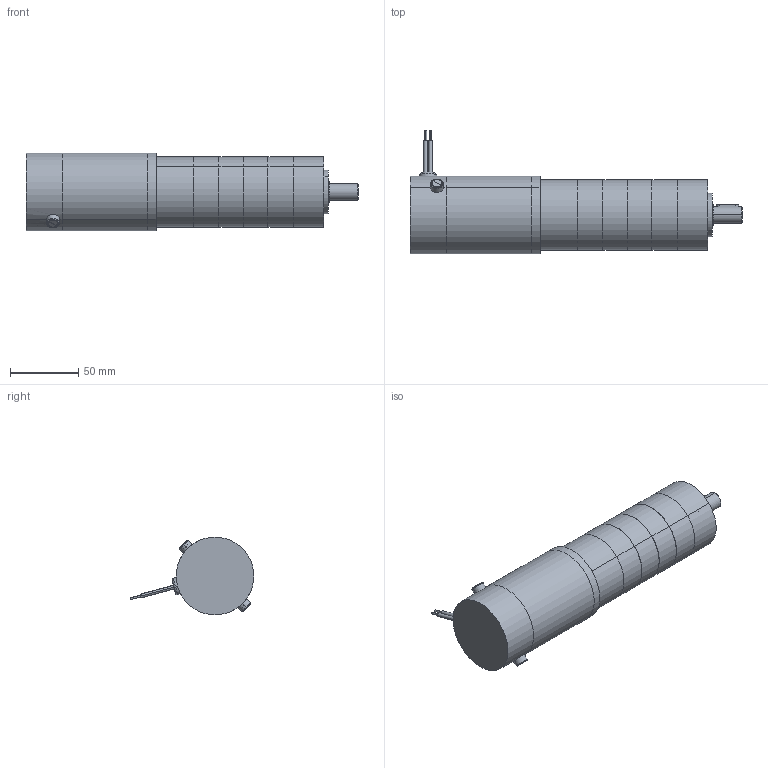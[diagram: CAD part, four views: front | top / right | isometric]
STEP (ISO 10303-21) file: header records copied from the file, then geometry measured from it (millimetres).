
FILE_DESCRIPTION (( 'STEP AP203' ), '1' );
FILE_NAME ('d22376gp4.step', '2018-12-07T19:15:23', ( '' ), ( '' ), 'SwSTEP 2.0', 'SolidWorks 2017', '' );
FILE_SCHEMA (( 'CONFIG_CONTROL_DESIGN' ));
Length unit declared in the file: inch
Products named in the file (1): d22376gp4
Bounding box: 244 x 90.76 x 56.93 mm (x, y, z)
Volume: 508809.6 mm3; surface area: 82983.3 mm2
Topology: 17 solids, 17 shells, 342 faces, 725 edges, 446 vertices
Faces by surface type: cylinder 142, plane 133, cone 57, torus 6, sphere 4
Entity records: 9441 total; most frequent: CARTESIAN_POINT 1758, DIRECTION 1746, ORIENTED_EDGE 1418, EDGE_CURVE 709, AXIS2_PLACEMENT_3D 704, VERTEX_POINT 446, EDGE_LOOP 407, CIRCLE 361
